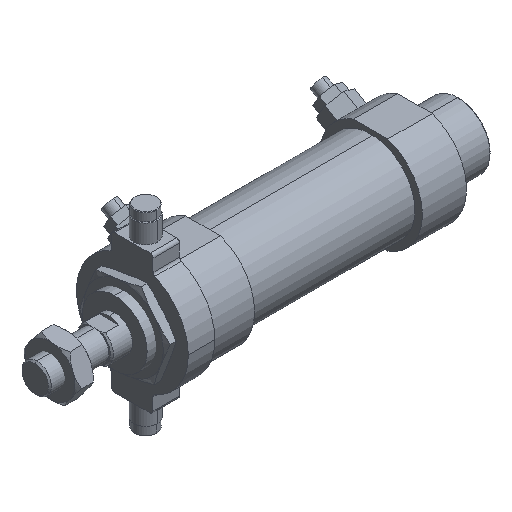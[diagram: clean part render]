
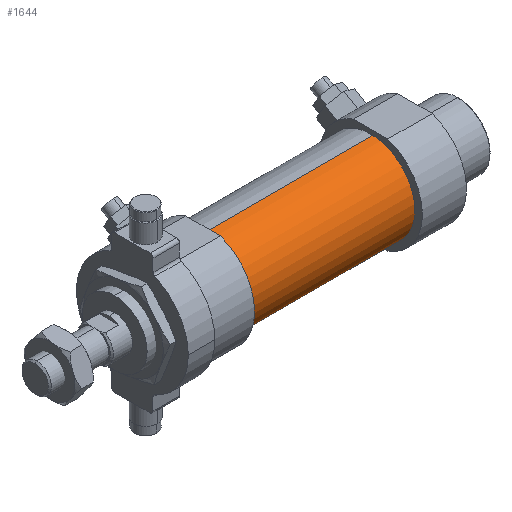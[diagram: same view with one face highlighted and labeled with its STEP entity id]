
A CAD part, isometric view. The second image highlights one B-rep face of the part: STEP entity #1644.
In plain terms, the highlighted cylindrical face has radius 15 mm (diameter 30 mm), a partial arc.
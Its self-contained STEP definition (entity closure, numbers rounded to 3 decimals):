
#64 = VERTEX_POINT ( 'NONE', #5266 ) ;
#186 = EDGE_LOOP ( 'NONE', ( #673, #2718, #4652, #3499 ) ) ;
#378 = EDGE_CURVE ( 'NONE', #2936, #64, #5955, .T. ) ;
#383 = LINE ( 'NONE', #1335, #1598 ) ;
#673 = ORIENTED_EDGE ( 'NONE', *, *, #2647, .F. ) ;
#1222 = DIRECTION ( 'NONE',  ( 0., 0., -1. ) ) ;
#1248 = DIRECTION ( 'NONE',  ( -1., 0., 0. ) ) ;
#1265 = AXIS2_PLACEMENT_3D ( 'NONE', #3597, #1248, #2442 ) ;
#1326 = AXIS2_PLACEMENT_3D ( 'NONE', #2423, #1745, #1222 ) ;
#1335 = CARTESIAN_POINT ( 'NONE',  ( 28.5, 0., 15. ) ) ;
#1598 = VECTOR ( 'NONE', #5525, 1000. ) ;
#1624 = VECTOR ( 'NONE', #2005, 1000. ) ;
#1644 = ADVANCED_FACE ( 'NONE', ( #5032 ), #4353, .T. ) ;
#1745 = DIRECTION ( 'NONE',  ( 1., 0., 0. ) ) ;
#1750 = VERTEX_POINT ( 'NONE', #5628 ) ;
#1996 = CARTESIAN_POINT ( 'NONE',  ( 28.5, 0., 0. ) ) ;
#2005 = DIRECTION ( 'NONE',  ( -1., 0., 0. ) ) ;
#2190 = DIRECTION ( 'NONE',  ( 0., 0., -1. ) ) ;
#2423 = CARTESIAN_POINT ( 'NONE',  ( -28.5, 0., 0. ) ) ;
#2442 = DIRECTION ( 'NONE',  ( 0., 0., 1. ) ) ;
#2647 = EDGE_CURVE ( 'NONE', #5345, #64, #4395, .T. ) ;
#2718 = ORIENTED_EDGE ( 'NONE', *, *, #4574, .F. ) ;
#2847 = CARTESIAN_POINT ( 'NONE',  ( -28.5, 0., 15. ) ) ;
#2936 = VERTEX_POINT ( 'NONE', #2847 ) ;
#3499 = ORIENTED_EDGE ( 'NONE', *, *, #378, .T. ) ;
#3530 = CARTESIAN_POINT ( 'NONE',  ( 28.5, 0., -15. ) ) ;
#3597 = CARTESIAN_POINT ( 'NONE',  ( 28.5, 0., 0. ) ) ;
#3714 = EDGE_CURVE ( 'NONE', #1750, #2936, #383, .T. ) ;
#3836 = CARTESIAN_POINT ( 'NONE',  ( 28.5, 0., -15. ) ) ;
#4353 = CYLINDRICAL_SURFACE ( 'NONE', #1265, 15. ) ;
#4395 = LINE ( 'NONE', #3530, #1624 ) ;
#4574 = EDGE_CURVE ( 'NONE', #1750, #5345, #5976, .T. ) ;
#4579 = AXIS2_PLACEMENT_3D ( 'NONE', #1996, #5562, #2190 ) ;
#4652 = ORIENTED_EDGE ( 'NONE', *, *, #3714, .T. ) ;
#5032 = FACE_OUTER_BOUND ( 'NONE', #186, .T. ) ;
#5266 = CARTESIAN_POINT ( 'NONE',  ( -28.5, 0., -15. ) ) ;
#5345 = VERTEX_POINT ( 'NONE', #3836 ) ;
#5525 = DIRECTION ( 'NONE',  ( -1., 0., 0. ) ) ;
#5562 = DIRECTION ( 'NONE',  ( 1., 0., 0. ) ) ;
#5628 = CARTESIAN_POINT ( 'NONE',  ( 28.5, 0., 15. ) ) ;
#5955 = CIRCLE ( 'NONE', #1326, 15. ) ;
#5976 = CIRCLE ( 'NONE', #4579, 15. ) ;
